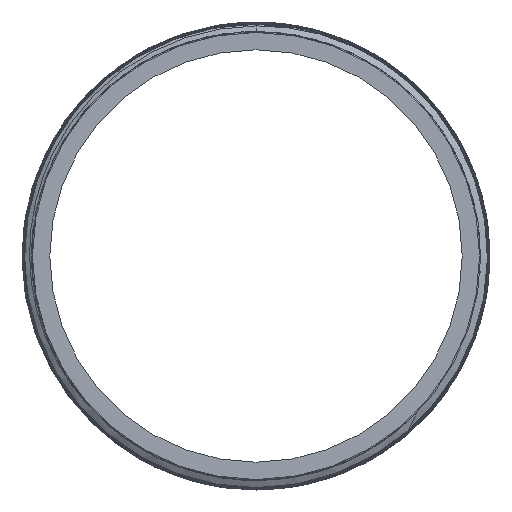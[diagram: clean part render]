
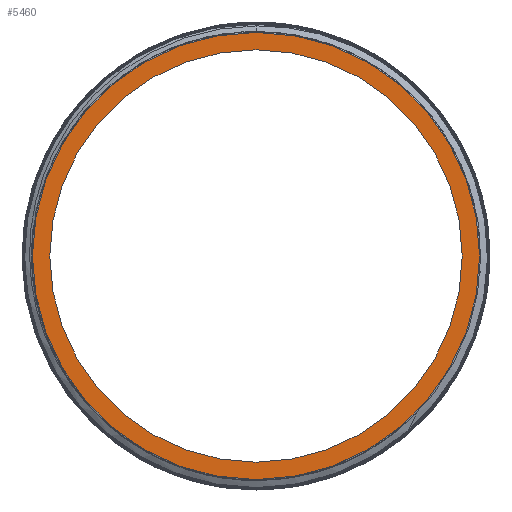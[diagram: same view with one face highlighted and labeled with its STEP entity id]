
A CAD part, left-side view. The second image highlights one B-rep face of the part: STEP entity #5460.
In plain terms, the highlighted planar face has unit normal (-1, 0, 0).
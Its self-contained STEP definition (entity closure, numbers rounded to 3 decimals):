
#328 = AXIS2_PLACEMENT_3D ( 'NONE', #2452, #6969, #6842 ) ;
#671 = CARTESIAN_POINT ( 'NONE',  ( -250., 0., 0. ) ) ;
#753 = DIRECTION ( 'NONE',  ( -1., 0., 0. ) ) ;
#797 = EDGE_CURVE ( 'NONE', #3017, #6825, #5815, .T. ) ;
#824 = AXIS2_PLACEMENT_3D ( 'NONE', #671, #6156, #4401 ) ;
#1407 = DIRECTION ( 'NONE',  ( 0., 0., -1. ) ) ;
#1551 = CARTESIAN_POINT ( 'NONE',  ( -250., 0., 0. ) ) ;
#1980 = CIRCLE ( 'NONE', #824, 16.1 ) ;
#2452 = CARTESIAN_POINT ( 'NONE',  ( -250., 0., 0. ) ) ;
#2708 = AXIS2_PLACEMENT_3D ( 'NONE', #3143, #753, #3431 ) ;
#2857 = CIRCLE ( 'NONE', #9474, 16.1 ) ;
#3017 = VERTEX_POINT ( 'NONE', #4215 ) ;
#3143 = CARTESIAN_POINT ( 'NONE',  ( -250., 0., 0. ) ) ;
#3431 = DIRECTION ( 'NONE',  ( 0., 0., 1. ) ) ;
#4110 = DIRECTION ( 'NONE',  ( 0., 0., 1. ) ) ;
#4169 = EDGE_CURVE ( 'NONE', #6825, #3017, #6560, .T. ) ;
#4215 = CARTESIAN_POINT ( 'NONE',  ( -250., 0., -14.85 ) ) ;
#4401 = DIRECTION ( 'NONE',  ( 0., 0., 1. ) ) ;
#4899 = EDGE_CURVE ( 'NONE', #5301, #6060, #2857, .T. ) ;
#5063 = CARTESIAN_POINT ( 'NONE',  ( -250., 14.85, 0. ) ) ;
#5301 = VERTEX_POINT ( 'NONE', #8669 ) ;
#5322 = DIRECTION ( 'NONE',  ( -1., 0., 0. ) ) ;
#5417 = EDGE_LOOP ( 'NONE', ( #9490, #6728 ) ) ;
#5460 = ADVANCED_FACE ( 'NONE', ( #7919, #7797 ), #9617, .F. ) ;
#5815 = CIRCLE ( 'NONE', #2708, 14.85 ) ;
#6060 = VERTEX_POINT ( 'NONE', #6596 ) ;
#6156 = DIRECTION ( 'NONE',  ( -1., 0., 0. ) ) ;
#6378 = AXIS2_PLACEMENT_3D ( 'NONE', #5063, #7006, #1407 ) ;
#6560 = CIRCLE ( 'NONE', #328, 14.85 ) ;
#6596 = CARTESIAN_POINT ( 'NONE',  ( -250., 0., 16.1 ) ) ;
#6728 = ORIENTED_EDGE ( 'NONE', *, *, #11385, .T. ) ;
#6825 = VERTEX_POINT ( 'NONE', #6985 ) ;
#6842 = DIRECTION ( 'NONE',  ( 0., 0., 1. ) ) ;
#6969 = DIRECTION ( 'NONE',  ( -1., 0., 0. ) ) ;
#6985 = CARTESIAN_POINT ( 'NONE',  ( -250., 0., 14.85 ) ) ;
#7006 = DIRECTION ( 'NONE',  ( 1., 0., 0. ) ) ;
#7797 = FACE_OUTER_BOUND ( 'NONE', #5417, .T. ) ;
#7919 = FACE_BOUND ( 'NONE', #9776, .T. ) ;
#8340 = ORIENTED_EDGE ( 'NONE', *, *, #4169, .F. ) ;
#8669 = CARTESIAN_POINT ( 'NONE',  ( -250., 0., -16.1 ) ) ;
#9474 = AXIS2_PLACEMENT_3D ( 'NONE', #1551, #5322, #4110 ) ;
#9490 = ORIENTED_EDGE ( 'NONE', *, *, #4899, .T. ) ;
#9519 = ORIENTED_EDGE ( 'NONE', *, *, #797, .F. ) ;
#9617 = PLANE ( 'NONE',  #6378 ) ;
#9776 = EDGE_LOOP ( 'NONE', ( #8340, #9519 ) ) ;
#11385 = EDGE_CURVE ( 'NONE', #6060, #5301, #1980, .T. ) ;
